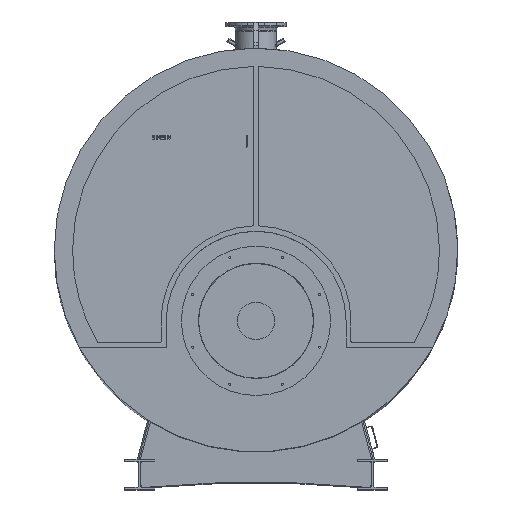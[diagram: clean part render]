
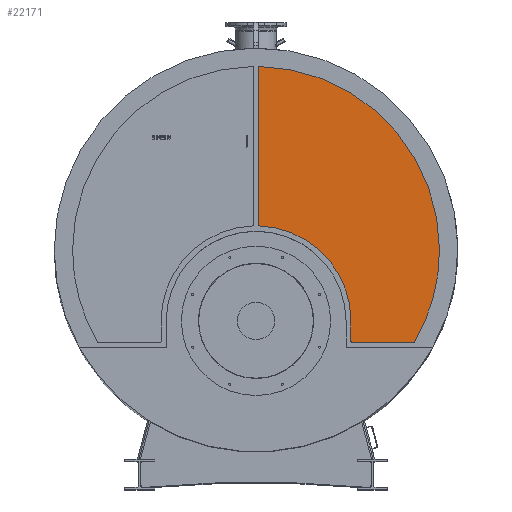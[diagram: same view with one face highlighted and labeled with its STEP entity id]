
A CAD part, top view. The second image highlights one B-rep face of the part: STEP entity #22171.
In plain terms, the highlighted planar face has unit normal (0, 0, 1).
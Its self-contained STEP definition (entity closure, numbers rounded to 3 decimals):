
#21925=CARTESIAN_POINT('',(15.,166.656,333.));
#21926=VERTEX_POINT('',#21925);
#21933=CARTESIAN_POINT('',(15.,1222.82,333.));
#21934=VERTEX_POINT('',#21933);
#21935=CARTESIAN_POINT('',(15.,1222.82,333.));
#21936=DIRECTION('',(-0.,-1.,0.));
#21937=VECTOR('',#21936,1056.163);
#21938=LINE('',#21935,#21937);
#21939=EDGE_CURVE('',#21934,#21926,#21938,.T.);
#21955=CARTESIAN_POINT('',(20.804,160.66,333.));
#21956=VERTEX_POINT('',#21955);
#21957=CARTESIAN_POINT('',(636.,-475.,333.));
#21958=VERTEX_POINT('',#21957);
#21959=CARTESIAN_POINT('',(0.,-475.,333.));
#21960=DIRECTION('',(0.,0.,-1.));
#21961=DIRECTION('',(1.,0.,0.));
#21962=AXIS2_PLACEMENT_3D('',#21959,#21960,#21961);
#21963=CIRCLE('',#21962,636.);
#21964=EDGE_CURVE('',#21956,#21958,#21963,.T.);
#21988=CARTESIAN_POINT('',(636.,-613.,333.));
#21989=VERTEX_POINT('',#21988);
#21996=CARTESIAN_POINT('',(636.,-475.,333.));
#21997=DIRECTION('',(0.,-1.,0.));
#21998=VECTOR('',#21997,138.);
#21999=LINE('',#21996,#21998);
#22000=EDGE_CURVE('',#21958,#21989,#21999,.T.);
#22012=CARTESIAN_POINT('',(1058.282,-619.,333.));
#22013=VERTEX_POINT('',#22012);
#22020=CARTESIAN_POINT('',(642.,-619.,333.));
#22021=VERTEX_POINT('',#22020);
#22022=CARTESIAN_POINT('',(642.,-619.,333.));
#22023=DIRECTION('',(1.,0.,-0.));
#22024=VECTOR('',#22023,416.282);
#22025=LINE('',#22022,#22024);
#22026=EDGE_CURVE('',#22021,#22013,#22025,.T.);
#22042=CARTESIAN_POINT('',(1229.,-0.,333.));
#22043=VERTEX_POINT('',#22042);
#22051=CARTESIAN_POINT('',(21.103,1228.819,333.));
#22052=VERTEX_POINT('',#22051);
#22059=CARTESIAN_POINT('',(0.,0.,333.));
#22060=DIRECTION('',(0.,0.,1.));
#22061=DIRECTION('',(1.,0.,-0.));
#22062=AXIS2_PLACEMENT_3D('',#22059,#22060,#22061);
#22063=CIRCLE('',#22062,1229.);
#22064=EDGE_CURVE('',#22043,#22052,#22063,.T.);
#22075=CARTESIAN_POINT('',(1063.474,-616.007,333.));
#22076=VERTEX_POINT('',#22075);
#22083=CARTESIAN_POINT('',(1058.282,-613.,333.));
#22084=DIRECTION('',(-0.,-0.,1.));
#22085=DIRECTION('',(-1.,0.,0.));
#22086=AXIS2_PLACEMENT_3D('',#22083,#22084,#22085);
#22087=CIRCLE('',#22086,6.);
#22088=EDGE_CURVE('',#22013,#22076,#22087,.T.);
#22101=CARTESIAN_POINT('',(642.,-613.,333.));
#22102=DIRECTION('',(-0.,-0.,1.));
#22103=DIRECTION('',(-1.,0.,0.));
#22104=AXIS2_PLACEMENT_3D('',#22101,#22102,#22103);
#22105=CIRCLE('',#22104,6.);
#22106=EDGE_CURVE('',#21989,#22021,#22105,.T.);
#22119=CARTESIAN_POINT('',(21.,166.656,333.));
#22120=DIRECTION('',(-0.,-0.,1.));
#22121=DIRECTION('',(-1.,0.,0.));
#22122=AXIS2_PLACEMENT_3D('',#22119,#22120,#22121);
#22123=CIRCLE('',#22122,6.);
#22124=EDGE_CURVE('',#21926,#21956,#22123,.T.);
#22137=CARTESIAN_POINT('',(21.,1222.82,333.));
#22138=DIRECTION('',(-0.,-0.,1.));
#22139=DIRECTION('',(-1.,0.,0.));
#22140=AXIS2_PLACEMENT_3D('',#22137,#22138,#22139);
#22141=CIRCLE('',#22140,6.);
#22142=EDGE_CURVE('',#22052,#21934,#22141,.T.);
#22148=CARTESIAN_POINT('',(948.077,723.923,333.));
#22149=DIRECTION('',(0.,0.,1.));
#22150=DIRECTION('',(1.,0.,0.));
#22151=AXIS2_PLACEMENT_3D('',#22148,#22149,#22150);
#22152=PLANE('',#22151);
#22153=ORIENTED_EDGE('',*,*,#22026,.T.);
#22154=ORIENTED_EDGE('',*,*,#22088,.T.);
#22155=CARTESIAN_POINT('',(0.,0.,333.));
#22156=DIRECTION('',(0.,0.,1.));
#22157=DIRECTION('',(1.,0.,-0.));
#22158=AXIS2_PLACEMENT_3D('',#22155,#22156,#22157);
#22159=CIRCLE('',#22158,1229.);
#22160=EDGE_CURVE('',#22076,#22043,#22159,.T.);
#22161=ORIENTED_EDGE('',*,*,#22160,.T.);
#22162=ORIENTED_EDGE('',*,*,#22064,.T.);
#22163=ORIENTED_EDGE('',*,*,#22142,.T.);
#22164=ORIENTED_EDGE('',*,*,#21939,.T.);
#22165=ORIENTED_EDGE('',*,*,#22124,.T.);
#22166=ORIENTED_EDGE('',*,*,#21964,.T.);
#22167=ORIENTED_EDGE('',*,*,#22000,.T.);
#22168=ORIENTED_EDGE('',*,*,#22106,.T.);
#22169=EDGE_LOOP('',(#22153,#22154,#22161,#22162,#22163,#22164,#22165,#22166,#22167,#22168));
#22170=FACE_BOUND('',#22169,.T.);
#22171=ADVANCED_FACE('',(#22170),#22152,.T.);
